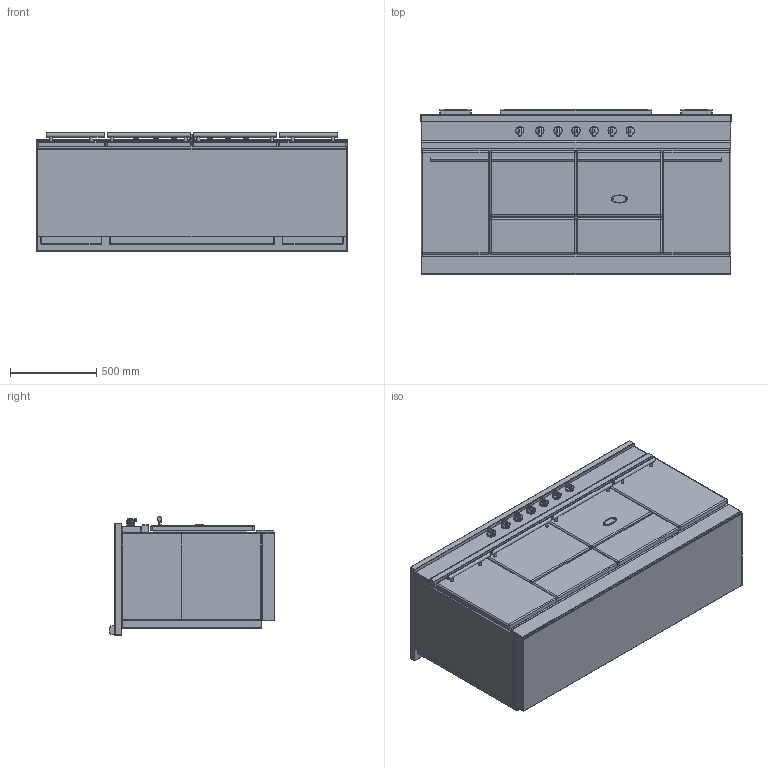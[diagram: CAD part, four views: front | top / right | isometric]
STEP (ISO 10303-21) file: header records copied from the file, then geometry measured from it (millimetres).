
FILE_DESCRIPTION((''),'2;1');
FILE_NAME('LMVI1852_ASM','2022-04-13T11:40:13',('stagiaire'),(''),'CREO PARAMETRIC BY PTC INC, 2021424','CREO PARAMETRIC BY PTC INC, 2021424','');
FILE_SCHEMA(('AP203_CONFIGURATION_CONTROLLED_3D_DESIGN_OF_MECHANICAL_PARTS_AND_ASSEMBLIES_MIM_LF { 1 0 10303 403 2 1 2 }'));
Products named in the file (13): BASE_EXPORT_CLUNY_1800_MODERN; 65064012; 19150009; 88064012_ASM; 65650001; 65049009; BASE_EXPORT_CLUNY_1800_MODERN_ASM; TABLE_1805_INDUCTION; 65052013; CHEMINEE_2020_LG182_EXPORT_STEP; CHEMINEE_2020_LG882_EXPORT_STEP; TABLE_1805_INDUCTION_ASM; LMVI1852_ASM
Assembly tree (19 placements, depth 4):
  LMVI1852_ASM
    BASE_EXPORT_CLUNY_1800_MODERN_ASM
      BASE_EXPORT_CLUNY_1800_MODERN
      88064012_ASM  x7
        65064012
        19150009
      65650001
      65049009
    TABLE_1805_INDUCTION_ASM
      TABLE_1805_INDUCTION
      65052013
      CHEMINEE_2020_LG182_EXPORT_STEP  x2
      CHEMINEE_2020_LG882_EXPORT_STEP
Bounding box: 1805 x 963 x 687.75 mm (x, y, z)
Volume: 663461321.2 mm3; surface area: 15835279.1 mm2
Topology: 26 solids, 26 shells, 3611 faces, 10508 edges, 6721 vertices
Faces by surface type: plane 1585, cylinder 1386, sphere 268, bspline 247, torus 89, cone 34, extrusion 2
Entity records: 105269 total; most frequent: CARTESIAN_POINT 25382, ORIENTED_EDGE 14572, DIRECTION 14143, EDGE_CURVE 7286, VECTOR 5509, LINE 5507, VERTEX_POINT 4701, AXIS2_PLACEMENT_3D 4299
